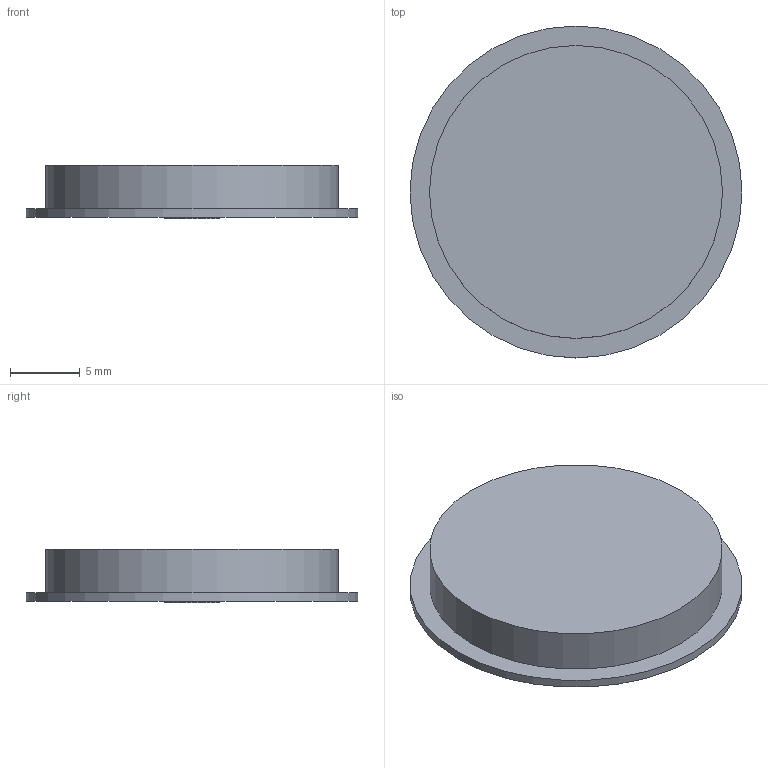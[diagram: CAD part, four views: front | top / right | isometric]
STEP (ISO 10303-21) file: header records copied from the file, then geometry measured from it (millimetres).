
FILE_DESCRIPTION(('Open CASCADE Model'),'2;1');
FILE_NAME('Open CASCADE Shape Model','2026-09-08T11:14:54',('Author'),( 'Open CASCADE'),'Open CASCADE STEP processor 7.7','Open CASCADE 7.7' ,'Unknown');
FILE_SCHEMA(('AUTOMOTIVE_DESIGN { 1 0 10303 214 1 1 1 1 }'));
Length unit declared in the file: millimetre
Products named in the file (1): Open CASCADE STEP translator 7.7 11
Bounding box: 23.8 x 23.8 x 3.8 mm (x, y, z)
Volume: 1341.9 mm3; surface area: 1140.4 mm2
Topology: 1 solids, 1 shells, 7 faces, 9 edges, 6 vertices
Faces by surface type: plane 4, cylinder 3
Full cylindrical faces by diameter (mm): 4 x1, 21 x1, 23.8 x1
Entity records: 279 total; most frequent: DIRECTION 48, CARTESIAN_POINT 47, ORIENTED_EDGE 18, PCURVE 18, DEFINITIONAL_REPRESENTATION 18, LINE 15, VECTOR 15, AXIS2_PLACEMENT_3D 14
